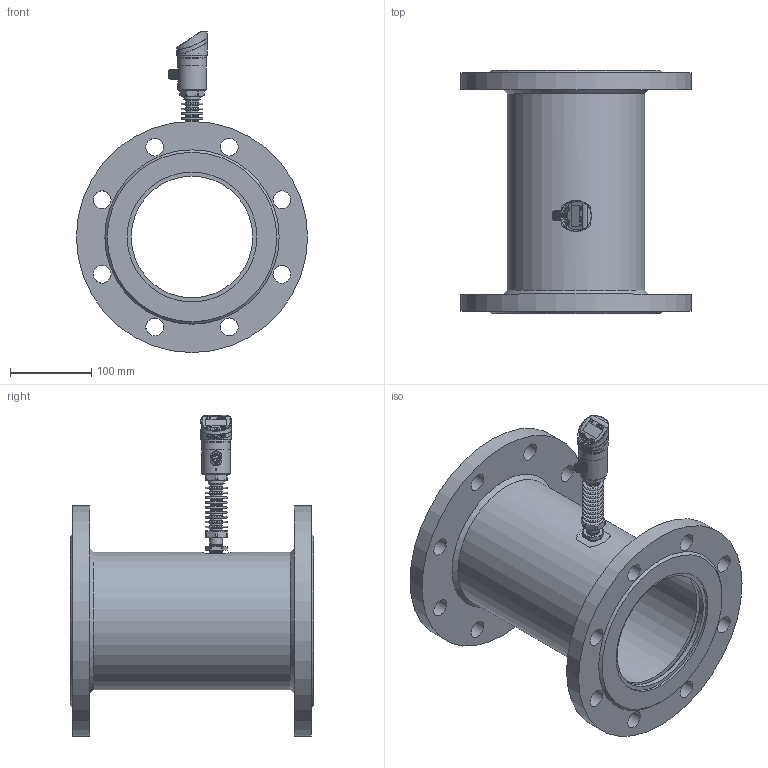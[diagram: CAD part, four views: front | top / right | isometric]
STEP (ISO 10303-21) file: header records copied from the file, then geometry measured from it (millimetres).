
FILE_DESCRIPTION( (''), '2;1');
FILE_NAME( 'QTKE_DN150_flange_high-temp.step', '2024-10-14T15:59:47+08:00', (''), (''), '', '', '');
FILE_SCHEMA (('AUTOMOTIVE_DESIGN { 1 0 10303 214 3 1 1 1 }'));
Length unit declared in the file: millimetre
Products named in the file (1): QTKE DN150_flange_high-temp
Bounding box: 285 x 300 x 396 mm (x, y, z)
Volume: 3196751.7 mm3; surface area: 552134.7 mm2
Topology: 5 solids, 5 shells, 1005 faces, 2579 edges, 1682 vertices
Faces by surface type: plane 407, cylinder 188, extrusion 160, cone 110, torus 60, bspline 59, sphere 21
Full cylindrical faces by diameter (mm): 1.689 x1, 2 x1, 2.7 x6, 3.5 x5, 12 x1, 13 x1, 15 x10, 15.9 x1, 16.5 x1, 20 x1, 22 x16, 23 x3, 26 x5, 31.7 x1, 32 x1, 34 x1, 34.2 x1, 35.5 x2, 150 x3, 160 x4, 170 x1, 285 x2
Entity records: 43469 total; most frequent: CARTESIAN_POINT 16367, ORIENTED_EDGE 4694, DIRECTION 4172, EDGE_CURVE 2347, VERTEX_POINT 1607, AXIS2_PLACEMENT_3D 1506, EDGE_LOOP 1302, VECTOR 1160
